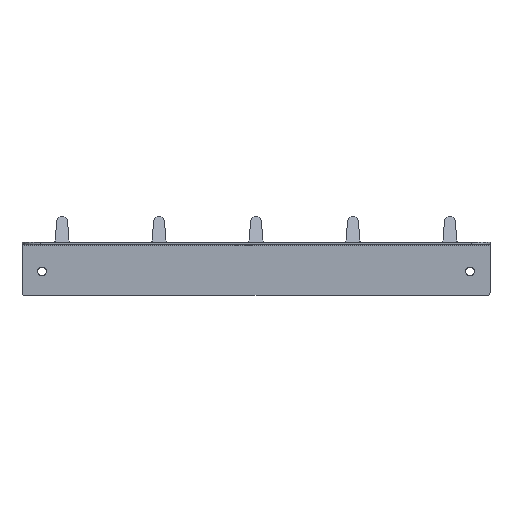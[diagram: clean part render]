
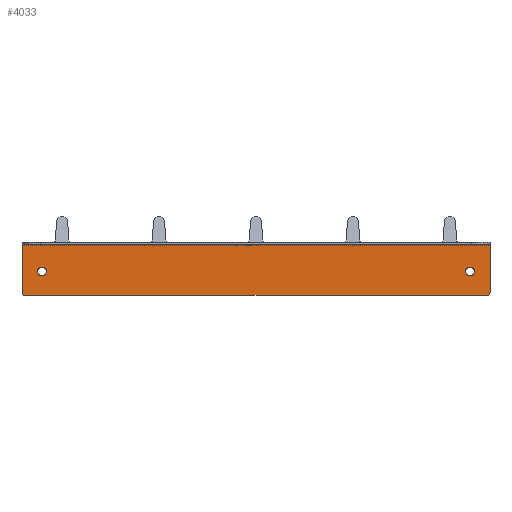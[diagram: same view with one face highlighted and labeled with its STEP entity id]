
A CAD part, front view. The second image highlights one B-rep face of the part: STEP entity #4033.
In plain terms, the highlighted planar face has unit normal (0, -1, 0).
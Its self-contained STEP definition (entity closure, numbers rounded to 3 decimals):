
#1523=CARTESIAN_POINT('',(160.,18.5,-22.));
#1524=DIRECTION('',(0.,-1.,0.));
#1525=DIRECTION('',(0.,0.,-1.));
#1526=AXIS2_PLACEMENT_3D('',#1523,#1524,#1525);
#1528=CARTESIAN_POINT('',(160.,18.5,-22.));
#1529=DIRECTION('',(0.,-1.,0.));
#1530=DIRECTION('',(0.,0.,1.));
#1531=AXIS2_PLACEMENT_3D('',#1528,#1529,#1530);
#1533=CARTESIAN_POINT('',(-160.,18.5,-22.));
#1534=DIRECTION('',(0.,-1.,0.));
#1535=DIRECTION('',(0.,0.,-1.));
#1536=AXIS2_PLACEMENT_3D('',#1533,#1534,#1535);
#1538=CARTESIAN_POINT('',(-160.,18.5,-22.));
#1539=DIRECTION('',(0.,-1.,0.));
#1540=DIRECTION('',(0.,0.,1.));
#1541=AXIS2_PLACEMENT_3D('',#1538,#1539,#1540);
#1543=CARTESIAN_POINT('',(-173.,18.5,-38.));
#1544=DIRECTION('',(0.,-1.,0.));
#1545=DIRECTION('',(-1.,0.,0.));
#1546=AXIS2_PLACEMENT_3D('',#1543,#1544,#1545);
#1548=DIRECTION('',(0.,0.,1.));
#1549=VECTOR('',#1548,35.5);
#1550=CARTESIAN_POINT('',(-175.,18.5,-38.));
#1551=LINE('',#1550,#1549);
#1552=DIRECTION('',(0.,0.,-1.));
#1553=VECTOR('',#1552,35.5);
#1554=CARTESIAN_POINT('',(175.,18.5,-2.5));
#1555=LINE('',#1554,#1553);
#1556=CARTESIAN_POINT('',(173.,18.5,-38.));
#1557=DIRECTION('',(0.,-1.,0.));
#1558=DIRECTION('',(0.,0.,-1.));
#1559=AXIS2_PLACEMENT_3D('',#1556,#1557,#1558);
#1561=DIRECTION('',(-1.,0.,0.));
#1562=VECTOR('',#1561,346.);
#1563=CARTESIAN_POINT('',(173.,18.5,-40.));
#1564=LINE('',#1563,#1562);
#1605=DIRECTION('',(1.,0.,0.));
#1606=VECTOR('',#1605,350.);
#1607=CARTESIAN_POINT('',(-175.,18.5,-2.5));
#1608=LINE('',#1607,#1606);
#1953=CARTESIAN_POINT('',(-175.,18.5,-2.5));
#1954=CARTESIAN_POINT('',(175.,18.5,-2.5));
#1955=VERTEX_POINT('',#1953);
#1956=VERTEX_POINT('',#1954);
#1969=CARTESIAN_POINT('',(-160.,18.5,-25.25));
#1970=CARTESIAN_POINT('',(-160.,18.5,-18.75));
#1971=VERTEX_POINT('',#1969);
#1972=VERTEX_POINT('',#1970);
#1973=CARTESIAN_POINT('',(160.,18.5,-25.25));
#1974=CARTESIAN_POINT('',(160.,18.5,-18.75));
#1975=VERTEX_POINT('',#1973);
#1976=VERTEX_POINT('',#1974);
#1981=CARTESIAN_POINT('',(-175.,18.5,-38.));
#1982=VERTEX_POINT('',#1981);
#1983=CARTESIAN_POINT('',(-173.,18.5,-40.));
#1984=VERTEX_POINT('',#1983);
#1989=CARTESIAN_POINT('',(173.,18.5,-40.));
#1990=VERTEX_POINT('',#1989);
#1991=CARTESIAN_POINT('',(175.,18.5,-38.));
#1992=VERTEX_POINT('',#1991);
#4004=CARTESIAN_POINT('',(175.,18.5,0.));
#4005=DIRECTION('',(0.,1.,0.));
#4006=DIRECTION('',(1.,0.,0.));
#4007=AXIS2_PLACEMENT_3D('',#4004,#4005,#4006);
#4008=PLANE('',#4007);
#4010=ORIENTED_EDGE('',*,*,#4009,.F.);
#4012=ORIENTED_EDGE('',*,*,#4011,.T.);
#4014=ORIENTED_EDGE('',*,*,#4013,.T.);
#4016=ORIENTED_EDGE('',*,*,#4015,.T.);
#4018=ORIENTED_EDGE('',*,*,#4017,.F.);
#4020=ORIENTED_EDGE('',*,*,#4019,.T.);
#4021=EDGE_LOOP('',(#4010,#4012,#4014,#4016,#4018,#4020));
#4022=FACE_OUTER_BOUND('',#4021,.F.);
#4023=ORIENTED_EDGE('',*,*,#3984,.T.);
#4024=ORIENTED_EDGE('',*,*,#3998,.T.);
#4025=EDGE_LOOP('',(#4023,#4024));
#4026=FACE_BOUND('',#4025,.F.);
#4028=ORIENTED_EDGE('',*,*,#4027,.T.);
#4030=ORIENTED_EDGE('',*,*,#4029,.T.);
#4031=EDGE_LOOP('',(#4028,#4030));
#4032=FACE_BOUND('',#4031,.F.);
#1527=CIRCLE('',#1526,3.25);
#1532=CIRCLE('',#1531,3.25);
#1537=CIRCLE('',#1536,3.25);
#1542=CIRCLE('',#1541,3.25);
#1547=CIRCLE('',#1546,2.);
#1560=CIRCLE('',#1559,2.);
#3984=EDGE_CURVE('',#1971,#1972,#1537,.T.);
#3998=EDGE_CURVE('',#1972,#1971,#1542,.T.);
#4009=EDGE_CURVE('',#1982,#1984,#1547,.T.);
#4011=EDGE_CURVE('',#1982,#1955,#1551,.T.);
#4013=EDGE_CURVE('',#1955,#1956,#1608,.T.);
#4015=EDGE_CURVE('',#1956,#1992,#1555,.T.);
#4017=EDGE_CURVE('',#1990,#1992,#1560,.T.);
#4019=EDGE_CURVE('',#1990,#1984,#1564,.T.);
#4027=EDGE_CURVE('',#1975,#1976,#1527,.T.);
#4029=EDGE_CURVE('',#1976,#1975,#1532,.T.);
#4033=ADVANCED_FACE('',(#4022,#4026,#4032),#4008,.F.);
